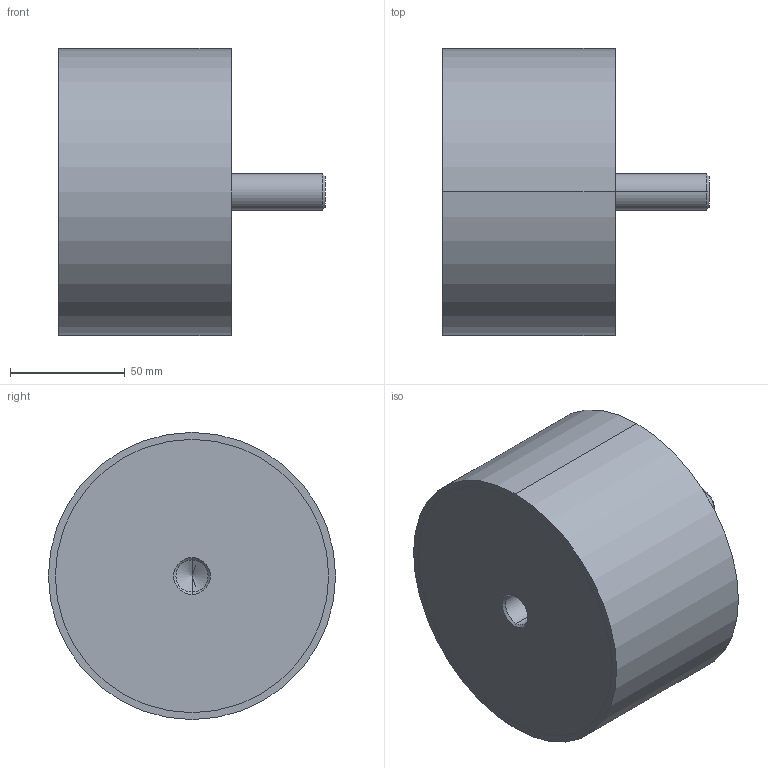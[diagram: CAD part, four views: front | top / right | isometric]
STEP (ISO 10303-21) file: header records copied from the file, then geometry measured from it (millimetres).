
FILE_DESCRIPTION (( 'STEP AP214' ), '1' );
FILE_NAME ('351-125-75-M16-ES-55.step', '2025-07-23T09:52:04', ( '' ), ( '' ), 'SwSTEP 2.0', 'SolidWorks 2022', '' );
FILE_SCHEMA (( 'AUTOMOTIVE_DESIGN' ));
Length unit declared in the file: millimetre
Products named in the file (1): 351-125-75-M16-ES-55
Bounding box: 116 x 125 x 125 mm (x, y, z)
Volume: 925460.5 mm3; surface area: 56793.2 mm2
Topology: 1 solids, 1 shells, 24 faces, 48 edges, 29 vertices
Faces by surface type: cylinder 12, cone 6, plane 6
Entity records: 740 total; most frequent: DIRECTION 124, CARTESIAN_POINT 100, ORIENTED_EDGE 92, AXIS2_PLACEMENT_3D 53, EDGE_CURVE 46, VERTEX_POINT 29, EDGE_LOOP 29, CIRCLE 28
